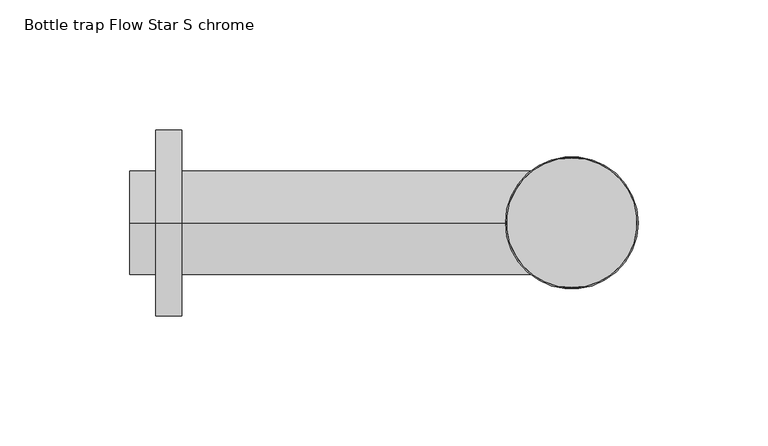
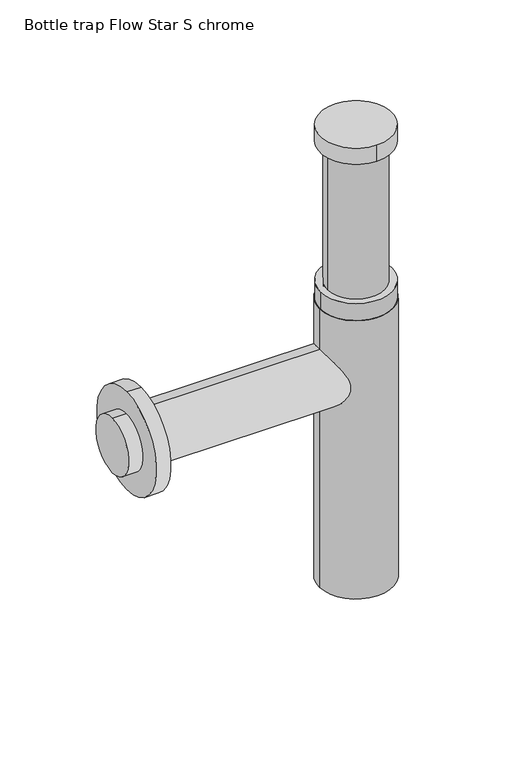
"""IFC4 building model written with IfcOpenShell, lengths in millimetres: flow terminal geometry, GF_SIFON-VESILUKKO FLOWSTAR S KROMI : Bottle trap Flow Star S chrome."""

from ifc_helpers import new_model, si_unit, point, frame, frame_2d, origin, origin_with_axes, origin_2d, place, context, project, spatial, circle_curve, trimmed, segment, composite_curve, outline, extrude, source, transform, mapped, element, save


def bottle_trap_flow_star_s_chrome_7d8e5f45(model_context):
    return source(origin(), model_context, "Body", "SweptSolid", [
        extrude(outline(composite_curve([segment(trimmed(circle_curve(origin_2d(), 25.0), [point((0.0, -25.0))], [point((0.0, 25.0))], False, "CARTESIAN"), True, "CONTINUOUS"), segment(trimmed(circle_curve(origin_2d(), 25.0), [point((0.0, 25.0))], [point((0.0, -25.0))], False, "CARTESIAN"), True, "CONTINUOUS")], self_intersect=False)), frame((0.0, 0.0, 320.0), z_axis=(0.0, 0.0, 1.0), x_axis=(1.0, 0.0, 0.0)), (0.0, 0.0, 1.0), 12.0),
        extrude(outline(composite_curve([segment(trimmed(circle_curve(origin_2d(), 20.0), [point((20.0, 0.0))], [point((-20.0, 0.0))], False, "CARTESIAN"), True, "CONTINUOUS"), segment(trimmed(circle_curve(origin_2d(), 20.0), [point((-20.0, 0.0))], [point((20.0, 0.0))], False, "CARTESIAN"), True, "CONTINUOUS")], self_intersect=False)), frame((0.0, 0.0, 155.0), z_axis=(0.0, 0.0, 1.0), x_axis=(1.0, 0.0, 0.0)), (0.0, 0.0, 1.0), 165.0),
        extrude(outline(composite_curve([segment(trimmed(circle_curve(frame_2d((0.0, 155.0)), 36.0), [point((0.0, 119.0))], [point((0.0, 191.0))], False, "CARTESIAN"), True, "CONTINUOUS"), segment(trimmed(circle_curve(frame_2d((0.0, 155.0)), 36.0), [point((0.0, 191.0))], [point((0.0, 119.0))], False, "CARTESIAN"), True, "CONTINUOUS")], self_intersect=False)), frame((-160.0, 0.0, 0.0), z_axis=(1.0, 0.0, 0.0), x_axis=(0.0, 1.0, 0.0)), (0.0, 0.0, 1.0), 10.0),
        extrude(outline(composite_curve([segment(trimmed(circle_curve(frame_2d((0.0, 155.0)), 20.0), [point((0.0, 135.0))], [point((0.0, 175.0))], False, "CARTESIAN"), True, "CONTINUOUS"), segment(trimmed(circle_curve(frame_2d((0.0, 155.0)), 20.0), [point((0.0, 175.0))], [point((0.0, 135.0))], False, "CARTESIAN"), True, "CONTINUOUS")], self_intersect=False)), frame((-170.0, 0.0, 0.0), z_axis=(1.0, 0.0, 0.0), x_axis=(0.0, 1.0, 0.0)), (0.0, 0.0, 1.0), 170.0),
        extrude(outline(composite_curve([segment(trimmed(circle_curve(origin_2d(), 25.0), [point((25.0, 0.0))], [point((-25.0, 0.0))], False, "CARTESIAN"), True, "CONTINUOUS"), segment(trimmed(circle_curve(origin_2d(), 25.0), [point((-25.0, 0.0))], [point((25.0, 0.0))], False, "CARTESIAN"), True, "CONTINUOUS")], self_intersect=False)), frame((0.0, 0.0, 205.0), z_axis=(0.0, 0.0, 1.0), x_axis=(1.0, 0.0, 0.0)), (0.0, 0.0, 1.0), 12.5),
        extrude(outline(composite_curve([segment(trimmed(circle_curve(origin_2d(), 25.5), [point((25.5, 0.0))], [point((-25.5, 0.0))], False, "CARTESIAN"), True, "CONTINUOUS"), segment(trimmed(circle_curve(origin_2d(), 25.5), [point((-25.5, 0.0))], [point((25.5, 0.0))], False, "CARTESIAN"), True, "CONTINUOUS")], self_intersect=False)), origin_with_axes(), (0.0, 0.0, 1.0), 205.0),
    ])


if __name__ == "__main__":
    model = new_model("IFC4")
    model_context = context("Model", 3, world=origin())
    ifc_project = project(units=[si_unit("LENGTHUNIT", "METRE", prefix="MILLI")], contexts=[model_context])
    site = spatial("IfcSite", under=ifc_project)
    building = spatial("IfcBuilding", under=site)
    placement = place(None, origin())
    bottle_trap_flow_star_s_chrome_shape = bottle_trap_flow_star_s_chrome_7d8e5f45(model_context)
    element("IfcFlowTerminal", 1, ObjectType="GF_SIFON-VESILUKKO FLOWSTAR S KROMI : Bottle trap Flow Star S chrome", at=placement, inside=building, context=model_context, shape_type="MappedRepresentation", body=[
        mapped(bottle_trap_flow_star_s_chrome_shape, transform((0.0, 0.0, 0.0), x_axis=(1.0, 0.0, 0.0), y_axis=(0.0, 1.0, 0.0), z_axis=(0.0, 0.0, 1.0))),
    ])
    save(model, "model.ifc")
